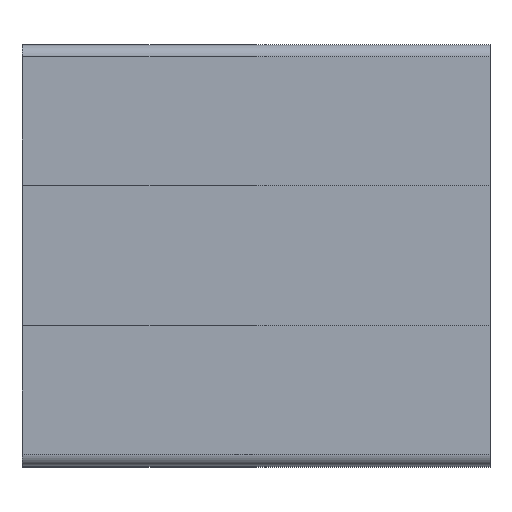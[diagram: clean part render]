
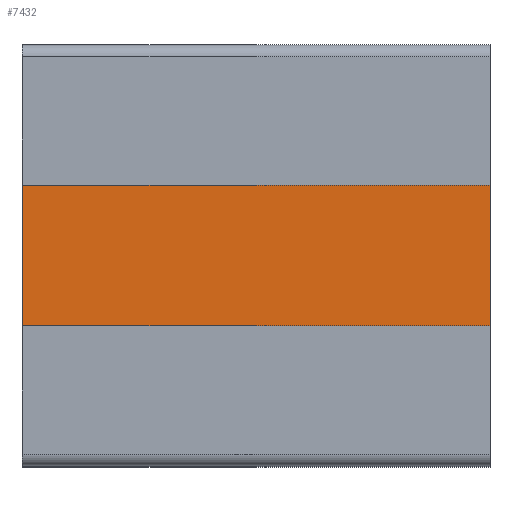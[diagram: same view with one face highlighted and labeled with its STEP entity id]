
A CAD part, top view. The second image highlights one B-rep face of the part: STEP entity #7432.
In plain terms, the highlighted planar face has unit normal (0, 0, 1).
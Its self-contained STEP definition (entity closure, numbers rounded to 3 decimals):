
#108 = LINE ( 'NONE', #7384, #3361 ) ;
#246 = PLANE ( 'NONE',  #4226 ) ;
#577 = VECTOR ( 'NONE', #5734, 1000. ) ;
#806 = CARTESIAN_POINT ( 'NONE',  ( 59.184, 81.398, 54.52 ) ) ;
#817 = VERTEX_POINT ( 'NONE', #5102 ) ;
#921 = DIRECTION ( 'NONE',  ( -1., 0., 0. ) ) ;
#1205 = ORIENTED_EDGE ( 'NONE', *, *, #7107, .T. ) ;
#1214 = ORIENTED_EDGE ( 'NONE', *, *, #3614, .F. ) ;
#1661 = CARTESIAN_POINT ( 'NONE',  ( -40.816, 81.398, 54.52 ) ) ;
#1819 = FACE_OUTER_BOUND ( 'NONE', #7693, .T. ) ;
#2039 = CARTESIAN_POINT ( 'NONE',  ( 59.184, 28.398, 54.52 ) ) ;
#2347 = DIRECTION ( 'NONE',  ( 0., -1., 0. ) ) ;
#2901 = VERTEX_POINT ( 'NONE', #2039 ) ;
#2916 = LINE ( 'NONE', #6092, #4457 ) ;
#3157 = EDGE_CURVE ( 'NONE', #3198, #817, #108, .T. ) ;
#3198 = VERTEX_POINT ( 'NONE', #5996 ) ;
#3361 = VECTOR ( 'NONE', #6681, 1000. ) ;
#3614 = EDGE_CURVE ( 'NONE', #3198, #2901, #8077, .T. ) ;
#4226 = AXIS2_PLACEMENT_3D ( 'NONE', #806, #5831, #921 ) ;
#4457 = VECTOR ( 'NONE', #8060, 1000. ) ;
#4787 = CARTESIAN_POINT ( 'NONE',  ( -40.816, 28.398, 54.52 ) ) ;
#5102 = CARTESIAN_POINT ( 'NONE',  ( -40.816, 81.398, 54.52 ) ) ;
#5213 = ORIENTED_EDGE ( 'NONE', *, *, #6085, .F. ) ;
#5353 = ORIENTED_EDGE ( 'NONE', *, *, #3157, .T. ) ;
#5570 = LINE ( 'NONE', #1661, #6670 ) ;
#5734 = DIRECTION ( 'NONE',  ( 0., -1., 0. ) ) ;
#5782 = CARTESIAN_POINT ( 'NONE',  ( 59.184, 81.398, 54.52 ) ) ;
#5831 = DIRECTION ( 'NONE',  ( 0., 0., -1. ) ) ;
#5996 = CARTESIAN_POINT ( 'NONE',  ( 59.184, 81.398, 54.52 ) ) ;
#6085 = EDGE_CURVE ( 'NONE', #2901, #7000, #2916, .T. ) ;
#6092 = CARTESIAN_POINT ( 'NONE',  ( 59.184, 28.398, 54.52 ) ) ;
#6670 = VECTOR ( 'NONE', #2347, 1000. ) ;
#6681 = DIRECTION ( 'NONE',  ( -1., 0., 0. ) ) ;
#7000 = VERTEX_POINT ( 'NONE', #4787 ) ;
#7107 = EDGE_CURVE ( 'NONE', #817, #7000, #5570, .T. ) ;
#7384 = CARTESIAN_POINT ( 'NONE',  ( 59.184, 81.398, 54.52 ) ) ;
#7432 = ADVANCED_FACE ( 'NONE', ( #1819 ), #246, .F. ) ;
#7693 = EDGE_LOOP ( 'NONE', ( #1205, #5213, #1214, #5353 ) ) ;
#8060 = DIRECTION ( 'NONE',  ( -1., 0., 0. ) ) ;
#8077 = LINE ( 'NONE', #5782, #577 ) ;
